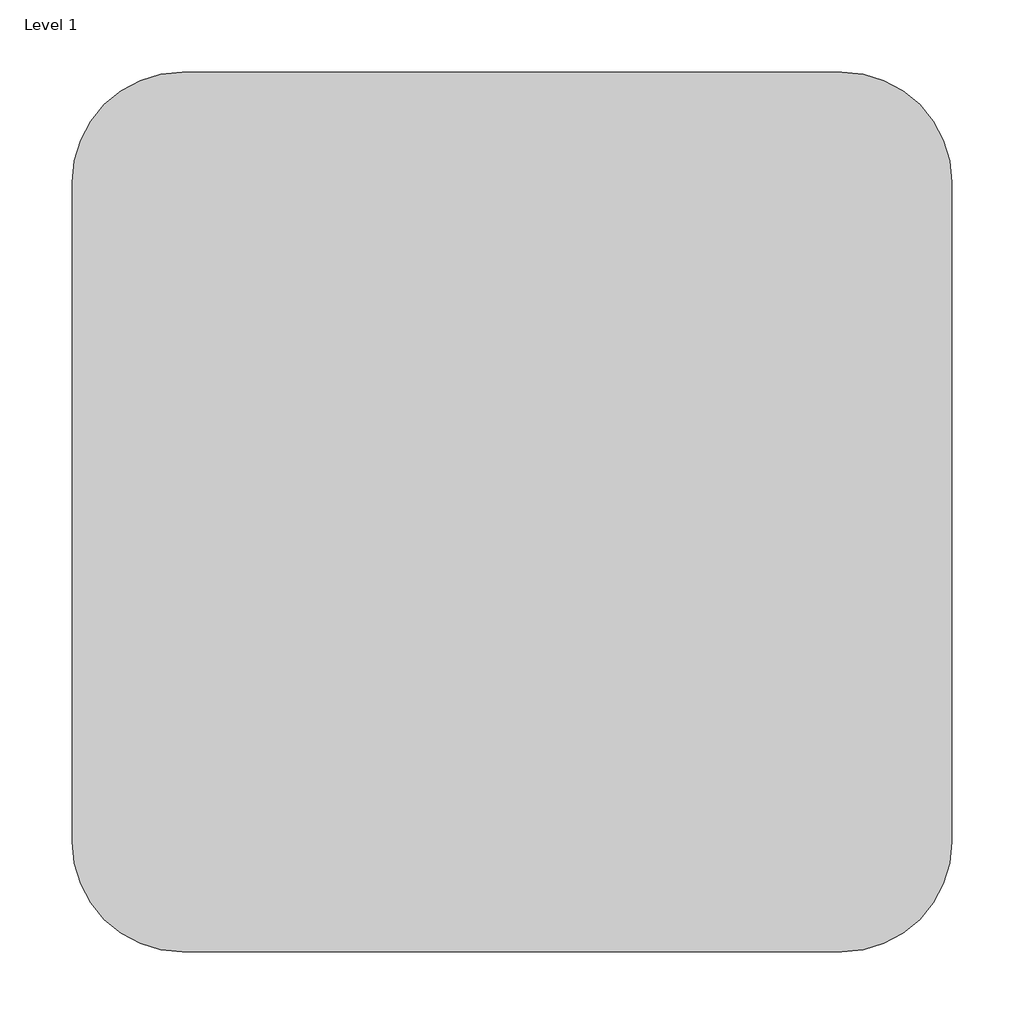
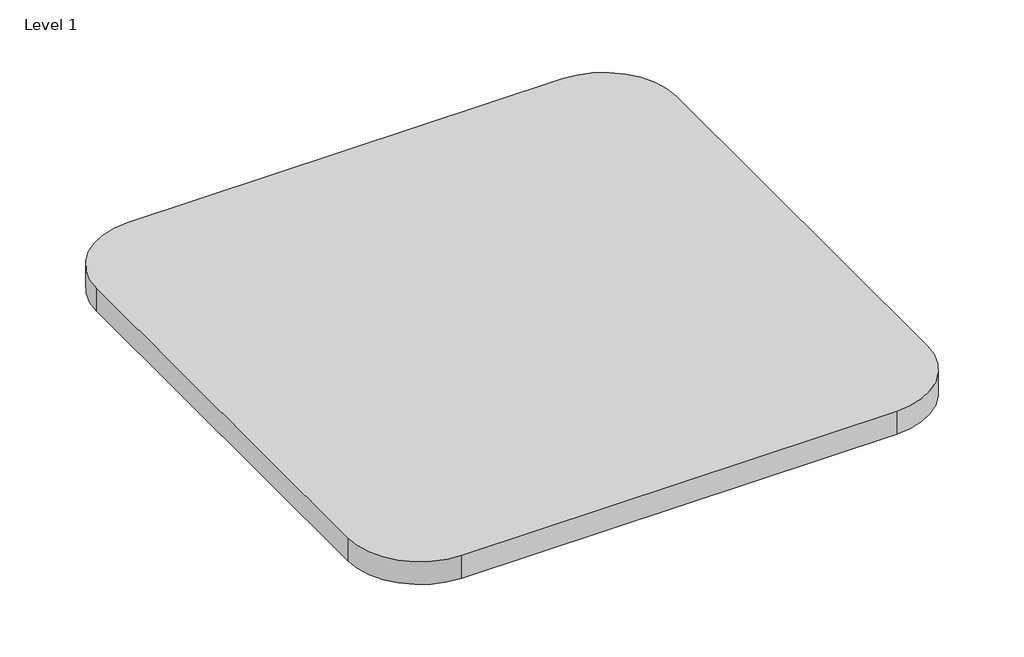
# One storey: 1 proxy.
"""IFC4 building model written with IfcOpenShell, lengths in millimetres."""

import ifcopenshell
import ifcopenshell.guid

model = None  # the IFC model being written
_history = None  # IfcOwnerHistory: only IFC2X3 demands one
_inside = {}  # id of a spatial element -> (the spatial element, [elements in it])
_under = {}  # id of a project, library or spatial element -> (it, [spatial elements below it])
_declared = {}  # id of a project -> (the project, [libraries it declares])
_typed = {}  # id of a type object -> (the type object, [elements of that type])
_made_of = {}  # id of a material, layer set ... -> (it, [elements and type objects made of it])


def new_model(schema):
    """Start an empty IFC model of exactly this schema.

    Asked for "IFC4X3", IfcOpenShell would pick the latest addendum, in which some entities
    have other attributes; the version numbers below select the first issue.
    IFC2X3 requires an IfcOwnerHistory on every rooted entity: one is made here for all.
    """
    global model, _history
    if schema == "IFC4X3":
        model = ifcopenshell.file(schema_version=(4, 3, 0, 0))
    else:
        model = ifcopenshell.file(schema=schema)
    _inside.clear()
    _under.clear()
    _declared.clear()
    _typed.clear()
    _made_of.clear()
    _history = None
    if model.schema == "IFC2X3":
        org = make("IfcOrganization", Name="unknown")
        user = make(
            "IfcPersonAndOrganization",
            ThePerson=make("IfcPerson", FamilyName="unknown"),
            TheOrganization=org,
        )
        app = make(
            "IfcApplication",
            ApplicationDeveloper=org,
            Version="unknown",
            ApplicationFullName="unknown",
            ApplicationIdentifier="unknown",
        )
        _history = make(
            "IfcOwnerHistory",
            OwningUser=user,
            OwningApplication=app,
            ChangeAction="ADDED",
            CreationDate=0,
        )
    return model


def make(cls, **values):
    """One entity of the class cls with the attributes given. An attribute that is None is left unset."""
    return model.create_entity(
        cls, **{name: value for name, value in values.items() if value is not None}
    )


def rooted(cls, **values):
    """An entity with a GlobalId (a new one), such as an element, a storey or a relation."""
    return make(cls, GlobalId=ifcopenshell.guid.new(), OwnerHistory=_history, **values)


def si_unit(unit_type, name, prefix=None):
    """IfcSIUnit, for example si_unit("LENGTHUNIT", "METRE", prefix="MILLI")."""
    return make("IfcSIUnit", UnitType=unit_type, Prefix=prefix, Name=name)


def assignment(units):
    """IfcUnitAssignment: the units of a project."""
    return None if units is None else make("IfcUnitAssignment", Units=units)


def point(xyz):
    """IfcCartesianPoint."""
    return None if xyz is None else make("IfcCartesianPoint", Coordinates=xyz)


def direction(xyz):
    """IfcDirection."""
    return None if xyz is None else make("IfcDirection", DirectionRatios=xyz)


def frame(location, z_axis=None, x_axis=None):
    """IfcAxis2Placement3D, a coordinate frame: its origin and axes. An axis left out is left unset."""
    return make(
        "IfcAxis2Placement3D",
        Location=point(location),
        Axis=direction(z_axis),
        RefDirection=direction(x_axis),
    )


def frame_2d(location, x_axis=None):
    """IfcAxis2Placement2D, a coordinate frame in the plane: its origin and x axis."""
    return make(
        "IfcAxis2Placement2D", Location=point(location), RefDirection=direction(x_axis)
    )


def origin():
    """The frame at (0, 0, 0) with its axes left unset."""
    return frame((0.0, 0.0, 0.0))


def origin_with_axes():
    """The frame at (0, 0, 0) with the z axis (0, 0, 1) and the x axis (1, 0, 0) written out."""
    return frame((0.0, 0.0, 0.0), z_axis=(0.0, 0.0, 1.0), x_axis=(1.0, 0.0, 0.0))


def place(relative_to, where):
    """IfcLocalPlacement: puts the frame where relative to a parent placement (None: the world)."""
    return make(
        "IfcLocalPlacement", PlacementRelTo=relative_to, RelativePlacement=where
    )


def context(
    kind, dimensions, precision=None, world=None, true_north=None, identifier=None
):
    """IfcGeometricRepresentationContext, for example the 3D "Model" context."""
    return make(
        "IfcGeometricRepresentationContext",
        ContextIdentifier=identifier,
        ContextType=kind,
        CoordinateSpaceDimension=dimensions,
        Precision=precision,
        WorldCoordinateSystem=world,
        TrueNorth=true_north,
    )


def project(units=None, contexts=None):
    """IfcProject with its units and contexts."""
    return rooted(
        "IfcProject",
        Name="project",
        RepresentationContexts=contexts,
        UnitsInContext=assignment(units),
    )


def spatial(cls, under=None, at=None, **own):
    """A site, building, storey or space (cls), placed at a placement, below another one or the project."""
    s = rooted(cls, ObjectPlacement=at, **own)
    if under is not None:
        _under.setdefault(under.id(), (under, []))[1].append(s)
    return s


def polyline(points):
    """IfcPolyline through the points."""
    return make("IfcPolyline", Points=[point(p) for p in points])


def circle_curve(where, radius):
    """IfcCircle in the frame where."""
    return make("IfcCircle", Position=where, Radius=radius)


def trimmed(basis, trim1, trim2, sense, master):
    """IfcTrimmedCurve: the piece of a basis curve between two trims."""
    return make(
        "IfcTrimmedCurve",
        BasisCurve=basis,
        Trim1=trim1,
        Trim2=trim2,
        SenseAgreement=sense,
        MasterRepresentation=master,
    )


def segment(curve, same_sense, transition):
    """IfcCompositeCurveSegment."""
    return make(
        "IfcCompositeCurveSegment",
        Transition=transition,
        SameSense=same_sense,
        ParentCurve=curve,
    )


def composite_curve(segments, self_intersect=None):
    """IfcCompositeCurve: segments joined end to end."""
    return make("IfcCompositeCurve", Segments=segments, SelfIntersect=self_intersect)


def outline(outer, holes=None, kind="AREA"):
    """IfcArbitraryClosedProfileDef: a profile drawn as a closed curve; with holes, ...WithVoids."""
    if holes is None:
        return make("IfcArbitraryClosedProfileDef", ProfileType=kind, OuterCurve=outer)
    return make(
        "IfcArbitraryProfileDefWithVoids",
        ProfileType=kind,
        OuterCurve=outer,
        InnerCurves=holes,
    )


def extrude(swept, where, along, depth):
    """IfcExtrudedAreaSolid: the profile swept, set in the frame where, extruded along a direction by depth."""
    return make(
        "IfcExtrudedAreaSolid",
        SweptArea=swept,
        Position=where,
        ExtrudedDirection=direction(along),
        Depth=depth,
    )


def shape(context_of_items, identifier, shape_type, items):
    """IfcShapeRepresentation: the items that make up one representation, for example the "Body"."""
    return make(
        "IfcShapeRepresentation",
        ContextOfItems=context_of_items,
        RepresentationIdentifier=identifier,
        RepresentationType=shape_type,
        Items=items,
    )


def source(mapping_origin, context_of_items, identifier, shape_type, items):
    """IfcRepresentationMap: a shape defined once, which mapped items show again and again."""
    return make(
        "IfcRepresentationMap",
        MappingOrigin=mapping_origin,
        MappedRepresentation=shape(context_of_items, identifier, shape_type, items),
    )


def transform(
    local_origin,
    x_axis=None,
    y_axis=None,
    z_axis=None,
    scale=None,
    scale2=None,
    scale3=None,
    uniform=True,
):
    """IfcCartesianTransformationOperator3D, or its non-uniform kind. x_axis, y_axis, z_axis: its Axis1, 2, 3."""
    if uniform:
        return make(
            "IfcCartesianTransformationOperator3D",
            Axis1=direction(x_axis),
            Axis2=direction(y_axis),
            LocalOrigin=point(local_origin),
            Scale=scale,
            Axis3=direction(z_axis),
        )
    return make(
        "IfcCartesianTransformationOperator3DnonUniform",
        Axis1=direction(x_axis),
        Axis2=direction(y_axis),
        LocalOrigin=point(local_origin),
        Scale=scale,
        Axis3=direction(z_axis),
        Scale2=scale2,
        Scale3=scale3,
    )


def mapped(mapping_source, mapping_target):
    """IfcMappedItem: shows the shape of a source again, moved by a transform."""
    return make(
        "IfcMappedItem", MappingSource=mapping_source, MappingTarget=mapping_target
    )


def made_of(thing, what):
    """Note that an element or type object is made of a material, layer set ...; save() writes the relation."""
    if what is not None:
        _made_of.setdefault(what.id(), (what, []))[1].append(thing)
    return thing


def element(
    cls,
    number,
    at=None,
    inside=None,
    cuts=None,
    type_object=None,
    material=None,
    context=None,
    identifier="Body",
    shape_type=None,
    held_by="IfcProductDefinitionShape",
    body=None,
    shapes=None,
    **own,
):
    """One element of the class cls, such as IfcWall. Its Tag is "e" and its number.

    at: its placement. inside: the storey or other place that contains it. cuts: it is an
    opening in that element (IfcRelVoidsElement). A single representation is given by context,
    identifier, shape_type and body (its items); several are given by shapes. held_by: the class
    of the entity that holds the representations. save() writes the other relations.
    """
    e = rooted(cls, Tag="e%d" % number, ObjectPlacement=at, **own)
    if body is not None:
        shapes = [shape(context, identifier, shape_type, body)]
    if shapes is not None:
        e.Representation = make(held_by, Representations=shapes)
    if inside is not None:
        _inside.setdefault(inside.id(), (inside, []))[1].append(e)
    if cuts is not None:
        rooted(
            "IfcRelVoidsElement", RelatingBuildingElement=cuts, RelatedOpeningElement=e
        )
    if type_object is not None:
        _typed.setdefault(type_object.id(), (type_object, []))[1].append(e)
    return made_of(e, material)


def aggregate(whole, parts):
    """IfcRelAggregates: a whole, such as a stair, and the parts it consists of."""
    return rooted("IfcRelAggregates", RelatingObject=whole, RelatedObjects=parts)


def save(model, path):
    """Write the relations noted so far, then the file.

    IfcRelAggregates (storeys below a building ...), IfcRelContainedInSpatialStructure (elements
    in a storey), IfcRelDefinesByType, IfcRelAssociatesMaterial and IfcRelDeclares: one each for
    every whole, place, type object, material and project.
    """
    for whole, parts in _under.values():
        aggregate(whole, parts)
    for where, things in _inside.values():
        rooted(
            "IfcRelContainedInSpatialStructure",
            RelatedElements=things,
            RelatingStructure=where,
        )
    for kind, things in _typed.values():
        rooted("IfcRelDefinesByType", RelatedObjects=things, RelatingType=kind)
    for what, things in _made_of.values():
        rooted("IfcRelAssociatesMaterial", RelatedObjects=things, RelatingMaterial=what)
    for by, libraries in _declared.values():
        rooted("IfcRelDeclares", RelatingContext=by, RelatedDefinitions=libraries)
    model.write(path)


def materialsample_type_1_9638d12c(model_context):
    return source(origin(), model_context, "Body", "SweptSolid", [
        extrude(outline(composite_curve([segment(polyline([(533.4, 0.0), (76.2, 0.0)]), True, "CONTINUOUS"), segment(trimmed(circle_curve(frame_2d((76.2, 76.2)), 76.2), [point((76.2, 0.0))], [point((0.0, 76.2))], False, "CARTESIAN"), True, "CONTINUOUS"), segment(polyline([(0.0, 76.2), (0.0, 533.4)]), True, "CONTINUOUS"), segment(trimmed(circle_curve(frame_2d((76.2, 533.4)), 76.2), [point((0.0, 533.4))], [point((76.2, 609.6))], False, "CARTESIAN"), True, "CONTINUOUS"), segment(polyline([(76.2, 609.6), (533.4, 609.6)]), True, "CONTINUOUS"), segment(trimmed(circle_curve(frame_2d((533.4, 533.4)), 76.2), [point((533.4, 609.6))], [point((609.6, 533.4))], False, "CARTESIAN"), True, "CONTINUOUS"), segment(polyline([(609.6, 533.4), (609.6, 76.2)]), True, "CONTINUOUS"), segment(trimmed(circle_curve(frame_2d((533.4, 76.2)), 76.2), [point((609.6, 76.2))], [point((533.4, 0.0))], False, "CARTESIAN"), True, "CONTINUOUS")], self_intersect=False)), origin_with_axes(), (0.0, 0.0, 1.0), 25.4),
    ])


model = new_model("IFC4")

# Units and contexts
model_context = context("Model", 3, world=origin())
ifc_project = project(units=[si_unit("LENGTHUNIT", "METRE", prefix="MILLI")], contexts=[model_context])

# Site, building, storey
site = spatial("IfcSite", under=ifc_project)
building = spatial("IfcBuilding", under=site)
storey = spatial("IfcBuildingStorey", under=building, Name="Level 1", Elevation=0.0)

# Proxy
placement = place(None, origin())
materialsample_type_1_shape = materialsample_type_1_9638d12c(model_context)
element("IfcBuildingElementProxy", 1, Name="MaterialSample : Type 1", ObjectType="MaterialSample : Type 1", at=placement, inside=storey, context=model_context, shape_type="MappedRepresentation", body=[
    mapped(materialsample_type_1_shape, transform((2286.0, 0.0, 0.0), x_axis=(1.0, 0.0, 0.0), y_axis=(0.0, 1.0, 0.0), z_axis=(0.0, 0.0, 1.0))),
])

save(model, "model.ifc")
